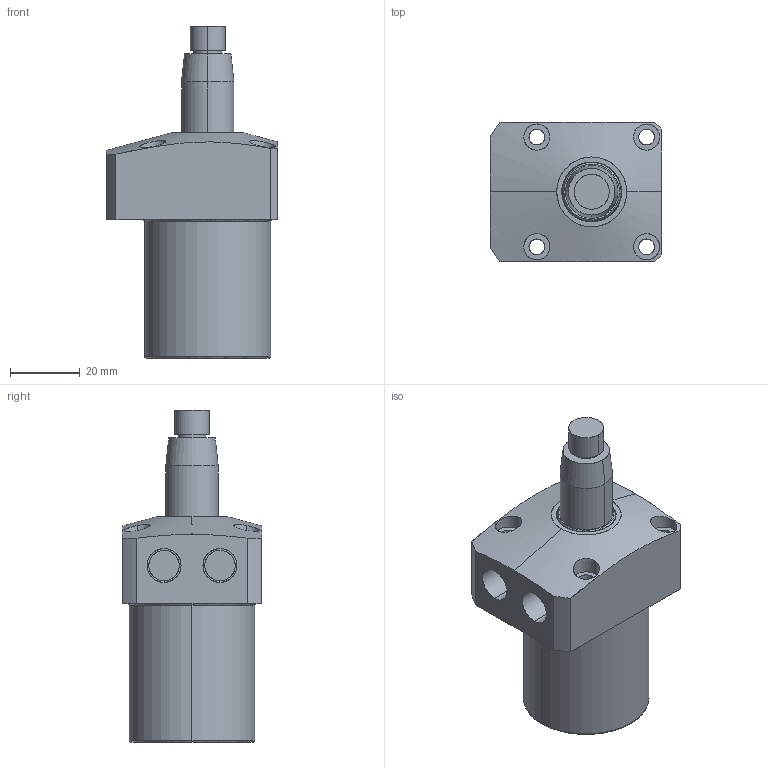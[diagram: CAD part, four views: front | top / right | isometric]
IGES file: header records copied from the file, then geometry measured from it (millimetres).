
Start section: SolidWorks IGES file using analytic representation for surfaces
Global section: file name: E:\karthik\CLASYS\Pneumatic Swing cylinders\Top mount cyl 0311\0311-0361.IGS; native system: SolidWorks 2010; preprocessor: SolidWorks 2010; author: karthik; date: 130916.094530; units: millimetre
Bounding box: 49 x 40 x 95 mm (x, y, z)
Surface area: 15918 mm2 (no closed solid volume)
Topology: 0 solids, 0 shells, 108 faces, 2432 edges, 2432 vertices
Faces by surface type: revolution 70, bspline 38
